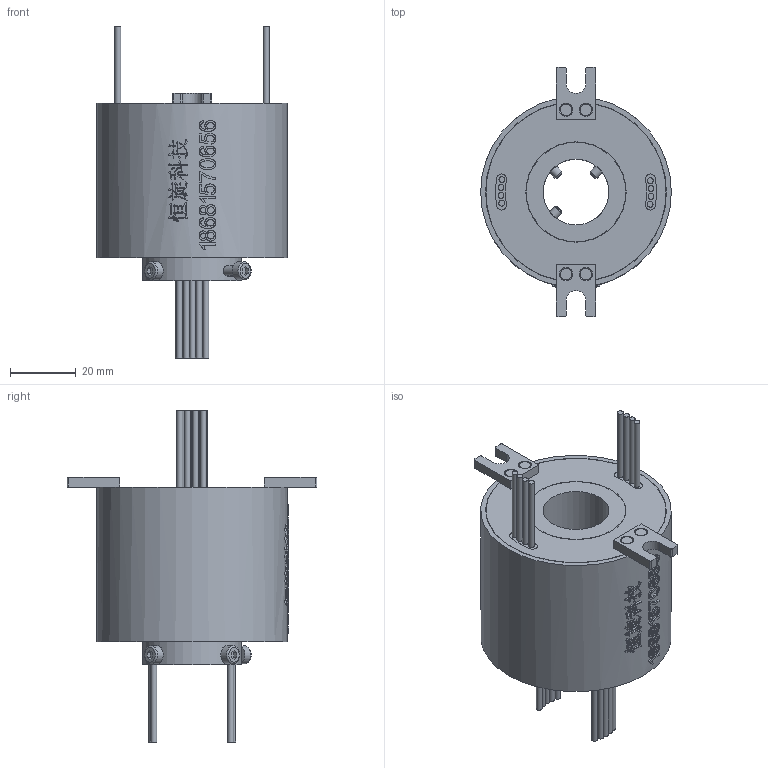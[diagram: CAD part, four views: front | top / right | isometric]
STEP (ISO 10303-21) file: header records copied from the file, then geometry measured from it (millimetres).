
FILE_DESCRIPTION(/* description */ (''),/* implementation_level */ '2;1');
FILE_NAME(/* name */ 'HD2058-0810-3D模型.stp',/* time_stamp */ '2025-08-27T18:39:38+08:00',/* author */ (''),/* organization */ (''),/* preprocessor_version */ 'ST-DEVELOPER v16.7',/* originating_system */ 'SIEMENS PLM Software NX 12.0',/* authorisation */ '');
FILE_SCHEMA (('AUTOMOTIVE_DESIGN { 1 0 10303 214 3 1 1 1 }'));
Length unit declared in the file: millimetre
Products named in the file (1): AdmiC17C83B1ndfn
Bounding box: 58 x 76 x 101 mm (x, y, z)
Volume: 114384.8 mm3; surface area: 23203.2 mm2
Topology: 1 solids, 5 shells, 803 faces, 2117 edges, 1409 vertices
Faces by surface type: extrusion 340, plane 324, cylinder 81, bspline 30, cone 24, torus 4
Full cylindrical faces by diameter (mm): 1.8 x18, 2 x4, 2.5 x5, 3 x7, 3.5 x4, 5.5 x4, 20 x1, 30 x1, 30.3 x1, 30.5 x1, 54.8 x1, 55 x1, 58 x1
Entity records: 30789 total; most frequent: CARTESIAN_POINT 13818, ORIENTED_EDGE 4052, DIRECTION 2168, EDGE_CURVE 2026, B_SPLINE_CURVE_WITH_KNOTS 1736, VERTEX_POINT 1383, EDGE_LOOP 961, ADVANCED_FACE 803
